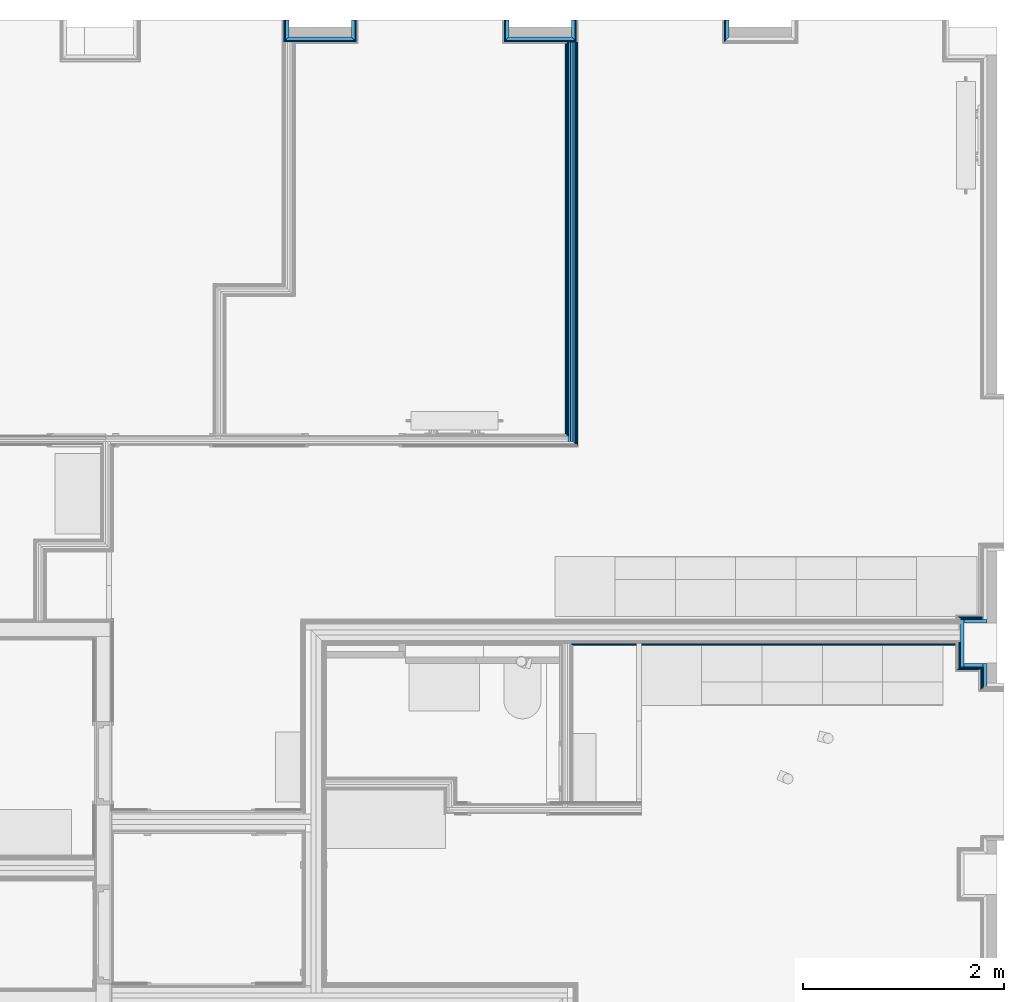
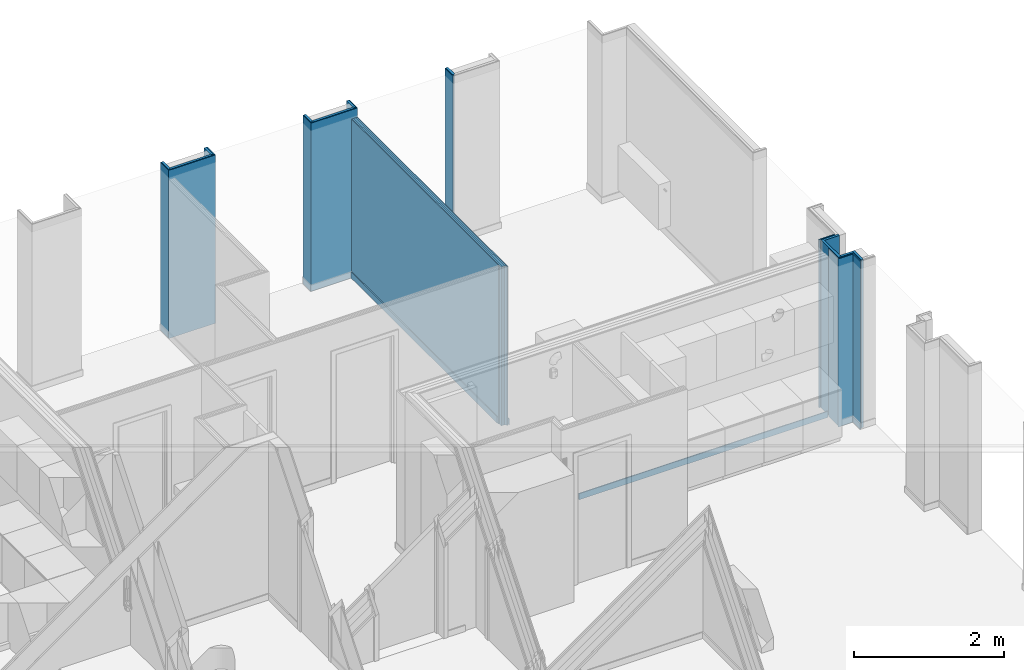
# One storey, part 23 of 85: 33 building element parts, 13 elements without a shape of their own.
"""IFC2X3 building model written with IfcOpenShell, lengths in metres."""

from ifc_helpers import new_model, entity, si_unit, converted_unit, derived_unit, money_unit, direction, frame, frame_2d, origin_with_axes, place, context, subcontext, project, spatial, polyline, rectangle, outline, extrude, material, type_object, element, aggregate, save


model = new_model("IFC2X3")

# Units and contexts
model_context = context("Model", 3, precision=1e-05, world=origin_with_axes(), true_north=direction((0.0, 1.0)))
body_context = subcontext(model_context, "Body", "Model", "MODEL_VIEW", scale=1.0)
ifc_project = project(units=[si_unit("LENGTHUNIT", "METRE"), si_unit("AREAUNIT", "SQUARE_METRE"), si_unit("VOLUMEUNIT", "CUBIC_METRE"), si_unit("ABSORBEDDOSEUNIT", "GRAY"), si_unit("AMOUNTOFSUBSTANCEUNIT", "MOLE"), si_unit("DOSEEQUIVALENTUNIT", "SIEVERT"), si_unit("ELECTRICCAPACITANCEUNIT", "FARAD"), si_unit("ELECTRICCHARGEUNIT", "COULOMB"), si_unit("ELECTRICCONDUCTANCEUNIT", "SIEMENS"), si_unit("ELECTRICCURRENTUNIT", "AMPERE"), si_unit("ELECTRICRESISTANCEUNIT", "OHM"), si_unit("ELECTRICVOLTAGEUNIT", "VOLT"), si_unit("ENERGYUNIT", "JOULE"), si_unit("FORCEUNIT", "NEWTON"), si_unit("FREQUENCYUNIT", "HERTZ"), si_unit("ILLUMINANCEUNIT", "LUX"), si_unit("INDUCTANCEUNIT", "HENRY"), si_unit("LUMINOUSFLUXUNIT", "LUMEN"), si_unit("LUMINOUSINTENSITYUNIT", "CANDELA"), si_unit("MAGNETICFLUXDENSITYUNIT", "TESLA"), si_unit("MAGNETICFLUXUNIT", "WEBER"), si_unit("MASSUNIT", "GRAM"), converted_unit("PLANEANGLEUNIT", "degree", entity("IfcReal", 0.0174532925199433), si_unit("PLANEANGLEUNIT", "RADIAN"), dimensions=[0, 0, 0, 0, 0, 0, 0]), si_unit("POWERUNIT", "WATT"), si_unit("PRESSUREUNIT", "PASCAL"), si_unit("RADIOACTIVITYUNIT", "BECQUEREL"), si_unit("SOLIDANGLEUNIT", "STERADIAN"), si_unit("THERMODYNAMICTEMPERATUREUNIT", "KELVIN"), si_unit("TIMEUNIT", "SECOND"), derived_unit("ACCELERATIONUNIT", [(si_unit("LENGTHUNIT", "METRE"), 1), (si_unit("TIMEUNIT", "SECOND"), -2)]), derived_unit("ANGULARVELOCITYUNIT", [(converted_unit("PLANEANGLEUNIT", "degree", entity("IfcReal", 0.0174532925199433), si_unit("PLANEANGLEUNIT", "RADIAN"), dimensions=[0, 0, 0, 0, 0, 0, 0]), 1), (si_unit("TIMEUNIT", "SECOND"), -1)]), derived_unit("CURVATUREUNIT", [(converted_unit("PLANEANGLEUNIT", "degree", entity("IfcReal", 0.0174532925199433), si_unit("PLANEANGLEUNIT", "RADIAN"), dimensions=[0, 0, 0, 0, 0, 0, 0]), 1), (si_unit("LENGTHUNIT", "METRE"), -1)]), derived_unit("DYNAMICVISCOSITYUNIT", [(si_unit("PRESSUREUNIT", "PASCAL"), 1), (si_unit("TIMEUNIT", "SECOND"), 1)]), derived_unit("HEATFLUXDENSITYUNIT", [(si_unit("POWERUNIT", "WATT"), 1), (si_unit("LENGTHUNIT", "METRE"), -2)]), derived_unit("HEATINGVALUEUNIT", [(si_unit("ENERGYUNIT", "JOULE"), 1), (si_unit("MASSUNIT", "GRAM"), -1)]), derived_unit("INTEGERCOUNTRATEUNIT", [(si_unit("TIMEUNIT", "SECOND"), -1)]), derived_unit("IONCONCENTRATIONUNIT", [(si_unit("MASSUNIT", "GRAM"), 1), (si_unit("VOLUMEUNIT", "CUBIC_METRE"), -1)]), derived_unit("ISOTHERMALMOISTURECAPACITYUNIT", [(si_unit("VOLUMEUNIT", "CUBIC_METRE"), 1), (si_unit("MASSUNIT", "GRAM"), -1)]), derived_unit("KINEMATICVISCOSITYUNIT", [(si_unit("AREAUNIT", "SQUARE_METRE"), 1), (si_unit("TIMEUNIT", "SECOND"), -1)]), derived_unit("LINEARFORCEUNIT", [(si_unit("FORCEUNIT", "NEWTON"), 1), (si_unit("LENGTHUNIT", "METRE"), -1)]), derived_unit("LINEARMOMENTUNIT", [(si_unit("FORCEUNIT", "NEWTON"), 1), (si_unit("LENGTHUNIT", "METRE"), -1)]), derived_unit("LINEARSTIFFNESSUNIT", [(si_unit("FORCEUNIT", "NEWTON"), 1), (si_unit("LENGTHUNIT", "METRE"), -1)]), derived_unit("LINEARVELOCITYUNIT", [(si_unit("LENGTHUNIT", "METRE"), 1), (si_unit("TIMEUNIT", "SECOND"), -1)]), derived_unit("LUMINOUSINTENSITYDISTRIBUTIONUNIT", [(si_unit("LUMINOUSINTENSITYUNIT", "CANDELA"), 1), (si_unit("LUMINOUSFLUXUNIT", "LUMEN"), -1)]), derived_unit("MASSDENSITYUNIT", [(si_unit("MASSUNIT", "GRAM"), 1), (si_unit("VOLUMEUNIT", "CUBIC_METRE"), -1)]), derived_unit("MASSFLOWRATEUNIT", [(si_unit("MASSUNIT", "GRAM"), 1), (si_unit("TIMEUNIT", "SECOND"), -1)]), derived_unit("MASSPERLENGTHUNIT", [(si_unit("MASSUNIT", "GRAM"), 1), (si_unit("LENGTHUNIT", "METRE"), -1)]), derived_unit("MODULUSOFELASTICITYUNIT", [(si_unit("FORCEUNIT", "NEWTON"), 1), (si_unit("AREAUNIT", "SQUARE_METRE"), -1)]), derived_unit("MODULUSOFLINEARSUBGRADEREACTIONUNIT", [(si_unit("FORCEUNIT", "NEWTON"), 1), (si_unit("LENGTHUNIT", "METRE"), -2)]), derived_unit("MODULUSOFROTATIONALSUBGRADEREACTIONUNIT", [(si_unit("FORCEUNIT", "NEWTON"), 1), (si_unit("LENGTHUNIT", "METRE"), 1)]), derived_unit("MODULUSOFSUBGRADEREACTIONUNIT", [(si_unit("FORCEUNIT", "NEWTON"), 1), (si_unit("VOLUMEUNIT", "CUBIC_METRE"), -1)]), derived_unit("MOISTUREDIFFUSIVITYUNIT", [(si_unit("VOLUMEUNIT", "CUBIC_METRE"), 1), (si_unit("TIMEUNIT", "SECOND"), -1)]), derived_unit("MOLECULARWEIGHTUNIT", [(si_unit("MASSUNIT", "GRAM"), 1), (si_unit("AMOUNTOFSUBSTANCEUNIT", "MOLE"), -1)]), derived_unit("PLANARFORCEUNIT", [(si_unit("FORCEUNIT", "NEWTON"), 1), (si_unit("LENGTHUNIT", "METRE"), -2)]), derived_unit("ROTATIONALFREQUENCYUNIT", [(si_unit("TIMEUNIT", "SECOND"), -1)]), derived_unit("ROTATIONALMASSUNIT", [(si_unit("MASSUNIT", "GRAM"), 1), (si_unit("LENGTHUNIT", "METRE"), 2)]), derived_unit("ROTATIONALSTIFFNESSUNIT", [(si_unit("FORCEUNIT", "NEWTON"), 1), (si_unit("LENGTHUNIT", "METRE"), 1), (converted_unit("PLANEANGLEUNIT", "degree", entity("IfcReal", 0.0174532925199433), si_unit("PLANEANGLEUNIT", "RADIAN"), dimensions=[0, 0, 0, 0, 0, 0, 0]), -1)]), derived_unit("SECTIONAREAINTEGRALUNIT", [(si_unit("LENGTHUNIT", "METRE"), 5)]), derived_unit("SECTIONMODULUSUNIT", [(si_unit("LENGTHUNIT", "METRE"), 3)]), derived_unit("SHEARMODULUSUNIT", [(si_unit("FORCEUNIT", "NEWTON"), 1), (si_unit("AREAUNIT", "SQUARE_METRE"), -1)]), derived_unit("SOUNDPOWERUNIT", [(si_unit("ENERGYUNIT", "JOULE"), 1), (si_unit("TIMEUNIT", "SECOND"), -1)]), derived_unit("SPECIFICHEATCAPACITYUNIT", [(si_unit("FORCEUNIT", "NEWTON"), 1), (si_unit("MASSUNIT", "GRAM"), -1), (si_unit("THERMODYNAMICTEMPERATUREUNIT", "KELVIN"), -1)]), derived_unit("TEMPERATUREGRADIENTUNIT", [(si_unit("THERMODYNAMICTEMPERATUREUNIT", "KELVIN"), 1), (si_unit("LENGTHUNIT", "METRE"), -1)]), derived_unit("THERMALADMITTANCEUNIT", [(si_unit("POWERUNIT", "WATT"), 1), (si_unit("AREAUNIT", "SQUARE_METRE"), -1), (si_unit("THERMODYNAMICTEMPERATUREUNIT", "KELVIN"), -1)]), derived_unit("THERMALCONDUCTANCEUNIT", [(si_unit("POWERUNIT", "WATT"), 1), (si_unit("LENGTHUNIT", "METRE"), -1), (si_unit("THERMODYNAMICTEMPERATUREUNIT", "KELVIN"), -1)]), derived_unit("THERMALEXPANSIONCOEFFICIENTUNIT", [(si_unit("THERMODYNAMICTEMPERATUREUNIT", "KELVIN"), -1)]), derived_unit("THERMALRESISTANCEUNIT", [(si_unit("AREAUNIT", "SQUARE_METRE"), 1), (si_unit("POWERUNIT", "WATT"), -1)]), derived_unit("THERMALTRANSMITTANCEUNIT", [(si_unit("POWERUNIT", "WATT"), 1), (si_unit("AREAUNIT", "SQUARE_METRE"), -1), (si_unit("THERMODYNAMICTEMPERATUREUNIT", "KELVIN"), -1)]), derived_unit("TORQUEUNIT", [(si_unit("FORCEUNIT", "NEWTON"), 1), (si_unit("LENGTHUNIT", "METRE"), 1)]), derived_unit("VAPORPERMEABILITYUNIT", [(si_unit("MASSUNIT", "GRAM"), 1), (si_unit("TIMEUNIT", "SECOND"), -1)]), derived_unit("VOLUMETRICFLOWRATEUNIT", [(si_unit("VOLUMEUNIT", "CUBIC_METRE"), 1), (si_unit("TIMEUNIT", "SECOND"), -1)]), derived_unit("WARPINGCONSTANTUNIT", [(si_unit("LENGTHUNIT", "METRE"), 6)]), derived_unit("WARPINGMOMENTUNIT", [(si_unit("FORCEUNIT", "NEWTON"), 1), (si_unit("LENGTHUNIT", "METRE"), 2)]), money_unit("GBP")], contexts=[model_context])

# Site, building, storey
site_placement = place(None, origin_with_axes())
site = spatial("IfcSite", under=ifc_project, at=site_placement, Name="Site", CompositionType="ELEMENT")
building_placement = place(site_placement, origin_with_axes())
building = spatial("IfcBuilding", under=site, at=building_placement, Name="Building01", CompositionType="ELEMENT")
storey_placement = place(building_placement, frame((0.0, 0.0, 12.13), z_axis=(0.0, 0.0, 1.0), x_axis=(1.0, 0.0, 0.0)))
storey = spatial("IfcBuildingStorey", under=building, at=storey_placement, Name="3F", CompositionType="ELEMENT", Elevation=12.13)

# Wall, building element parts
wall_type_1 = type_object("IfcWallType", Name="SHE_A-Walls_Type06d_ExternalWallInsulation_48mm", PredefinedType="NOTDEFINED")
wall_1_placement = place(storey_placement, frame((20.387, 14.8, 0.0), z_axis=(0.0, 0.0, 1.0), x_axis=(0.0, -1.0, 0.0)))
wall_1 = element("IfcWall", 1, at=wall_1_placement, inside=storey, type_object=wall_type_1, Name="6D", ObjectType="SHE_A-Walls_Type06d_ExternalWallInsulation_48mm")
ifc_material_1 = material(Name="A_BSUK_Insulation")
placement_1 = place(wall_1_placement, origin_with_axes())
building_element_part_1 = element("IfcBuildingElementPart", 2, at=placement_1, material=ifc_material_1, Name="1", context=body_context, shape_type="SweptSolid", body=[
    extrude(outline(polyline([(0.206, 0.036), (0.0, 0.036), (0.0, 0.0), (0.17, 0.0), (0.206, 0.036)])), origin_with_axes(), (0.0, 0.0, 1.0), 2.74),
])
ifc_material_2 = material(Name="A_BSUK_WallInternal_Finishes_Plasterboard")
building_element_part_2 = element("IfcBuildingElementPart", 3, at=placement_1, material=ifc_material_2, Name="2", context=body_context, shape_type="SweptSolid", body=[
    extrude(outline(polyline([(0.218, 0.048), (0.0, 0.048), (0.0, 0.035), (0.205, 0.035), (0.218, 0.048)])), origin_with_axes(), (0.0, 0.0, 1.0), 2.74),
])
aggregate(wall_1, [building_element_part_1, building_element_part_2])

wall_2_placement = place(storey_placement, frame((20.387, 14.63, 0.0), z_axis=(0.0, 0.0, 1.0), x_axis=(-1.0, 0.0, 0.0)))
wall_2 = element("IfcWall", 4, at=wall_2_placement, inside=storey, type_object=wall_type_1, Name="6D", ObjectType="SHE_A-Walls_Type06d_ExternalWallInsulation_48mm")
placement_2 = place(wall_2_placement, origin_with_axes())
building_element_part_3 = element("IfcBuildingElementPart", 5, at=placement_2, material=ifc_material_1, Name="1", context=body_context, shape_type="SweptSolid", body=[
    extrude(outline(polyline([(0.66, 0.036), (-0.036, 0.036), (0.0, 0.0), (0.624, 0.0), (0.66, 0.036)])), origin_with_axes(), (0.0, 0.0, 1.0), 2.74),
])
building_element_part_4 = element("IfcBuildingElementPart", 6, at=placement_2, material=ifc_material_2, Name="2", context=body_context, shape_type="SweptSolid", body=[
    extrude(outline(polyline([(0.672, 0.048), (-0.048, 0.048), (-0.035, 0.035), (0.659, 0.035), (0.672, 0.048)])), origin_with_axes(), (0.0, 0.0, 1.0), 2.74),
])
aggregate(wall_2, [building_element_part_3, building_element_part_4])

wall_3_placement = place(storey_placement, frame((19.763, 14.63, 0.0), z_axis=(0.0, 0.0, 1.0), x_axis=(0.0, 1.0, 0.0)))
wall_3 = element("IfcWall", 7, at=wall_3_placement, inside=storey, type_object=wall_type_1, Name="6D", ObjectType="SHE_A-Walls_Type06d_ExternalWallInsulation_48mm")
placement_3 = place(wall_3_placement, origin_with_axes())
building_element_part_5 = element("IfcBuildingElementPart", 8, at=placement_3, material=ifc_material_1, Name="1", context=body_context, shape_type="SweptSolid", body=[
    extrude(outline(polyline([(-0.036, 0.036), (0.0, 0.0), (0.17, 0.0), (0.17, 0.036), (-0.036, 0.036)])), origin_with_axes(), (0.0, 0.0, 1.0), 2.74),
])
building_element_part_6 = element("IfcBuildingElementPart", 9, at=placement_3, material=ifc_material_2, Name="2", context=body_context, shape_type="SweptSolid", body=[
    extrude(outline(polyline([(-0.048, 0.048), (-0.035, 0.035), (0.17, 0.035), (0.17, 0.048), (-0.048, 0.048)])), origin_with_axes(), (0.0, 0.0, 1.0), 2.74),
])
aggregate(wall_3, [building_element_part_5, building_element_part_6])

wall_4_placement = place(storey_placement, frame((22.577, 14.8, 0.0), z_axis=(0.0, 0.0, 1.0), x_axis=(0.0, -1.0, 0.0)))
wall_4 = element("IfcWall", 10, at=wall_4_placement, inside=storey, type_object=wall_type_1, Name="6D", ObjectType="SHE_A-Walls_Type06d_ExternalWallInsulation_48mm")
placement_4 = place(wall_4_placement, origin_with_axes())
building_element_part_7 = element("IfcBuildingElementPart", 11, at=placement_4, material=ifc_material_1, Name="1", context=body_context, shape_type="SweptSolid", body=[
    extrude(outline(polyline([(0.206, 0.036), (0.0, 0.036), (0.0, 0.0), (0.17, 0.0), (0.206, 0.036)])), origin_with_axes(), (0.0, 0.0, 1.0), 2.74),
])
building_element_part_8 = element("IfcBuildingElementPart", 12, at=placement_4, material=ifc_material_2, Name="2", context=body_context, shape_type="SweptSolid", body=[
    extrude(outline(polyline([(0.218, 0.048), (0.0, 0.048), (0.0, 0.035), (0.205, 0.035), (0.218, 0.048)])), origin_with_axes(), (0.0, 0.0, 1.0), 2.74),
])
aggregate(wall_4, [building_element_part_7, building_element_part_8])

wall_5_placement = place(storey_placement, frame((22.577, 14.63, 0.0), z_axis=(0.0, 0.0, 1.0), x_axis=(-1.0, 0.0, 0.0)))
wall_5 = element("IfcWall", 13, at=wall_5_placement, inside=storey, type_object=wall_type_1, Name="6D", ObjectType="SHE_A-Walls_Type06d_ExternalWallInsulation_48mm")
placement_5 = place(wall_5_placement, origin_with_axes())
building_element_part_9 = element("IfcBuildingElementPart", 14, at=placement_5, material=ifc_material_1, Name="1", context=body_context, shape_type="SweptSolid", body=[
    extrude(outline(polyline([(0.66, 0.036), (-0.036, 0.036), (0.0, 0.0), (0.624, 0.0), (0.66, 0.036)])), origin_with_axes(), (0.0, 0.0, 1.0), 2.74),
])
building_element_part_10 = element("IfcBuildingElementPart", 15, at=placement_5, material=ifc_material_2, Name="2", context=body_context, shape_type="SweptSolid", body=[
    extrude(outline(polyline([(0.672, 0.048), (-0.048, 0.048), (-0.035, 0.035), (0.659, 0.035), (0.672, 0.048)])), origin_with_axes(), (0.0, 0.0, 1.0), 2.74),
])
aggregate(wall_5, [building_element_part_9, building_element_part_10])

wall_6_placement = place(storey_placement, frame((21.953, 14.63, 0.0), z_axis=(0.0, 0.0, 1.0), x_axis=(0.0, 1.0, 0.0)))
wall_6 = element("IfcWall", 16, at=wall_6_placement, inside=storey, type_object=wall_type_1, Name="6D", ObjectType="SHE_A-Walls_Type06d_ExternalWallInsulation_48mm")
placement_6 = place(wall_6_placement, origin_with_axes())
building_element_part_11 = element("IfcBuildingElementPart", 17, at=placement_6, material=ifc_material_1, Name="1", context=body_context, shape_type="SweptSolid", body=[
    extrude(outline(polyline([(-0.036, 0.036), (0.0, 0.0), (0.17, 0.0), (0.17, 0.036), (-0.036, 0.036)])), origin_with_axes(), (0.0, 0.0, 1.0), 2.74),
])
building_element_part_12 = element("IfcBuildingElementPart", 18, at=placement_6, material=ifc_material_2, Name="2", context=body_context, shape_type="SweptSolid", body=[
    extrude(outline(polyline([(-0.048, 0.048), (-0.035, 0.035), (0.17, 0.035), (0.17, 0.048), (-0.048, 0.048)])), origin_with_axes(), (0.0, 0.0, 1.0), 2.74),
])
aggregate(wall_6, [building_element_part_11, building_element_part_12])

wall_7_placement = place(storey_placement, frame((24.143, 14.63, 0.0), z_axis=(0.0, 0.0, 1.0), x_axis=(0.0, 1.0, 0.0)))
wall_7 = element("IfcWall", 19, at=wall_7_placement, inside=storey, type_object=wall_type_1, Name="6D", ObjectType="SHE_A-Walls_Type06d_ExternalWallInsulation_48mm")
placement_7 = place(wall_7_placement, origin_with_axes())
building_element_part_13 = element("IfcBuildingElementPart", 20, at=placement_7, material=ifc_material_1, Name="1", context=body_context, shape_type="SweptSolid", body=[
    extrude(outline(polyline([(-0.036, 0.036), (0.0, 0.0), (0.17, 0.0), (0.17, 0.036), (-0.036, 0.036)])), origin_with_axes(), (0.0, 0.0, 1.0), 2.74),
])
building_element_part_14 = element("IfcBuildingElementPart", 21, at=placement_7, material=ifc_material_2, Name="2", context=body_context, shape_type="SweptSolid", body=[
    extrude(outline(polyline([(-0.048, 0.048), (-0.035, 0.035), (0.17, 0.035), (0.17, 0.048), (-0.048, 0.048)])), origin_with_axes(), (0.0, 0.0, 1.0), 2.74),
])
aggregate(wall_7, [building_element_part_13, building_element_part_14])

wall_type_2 = type_object("IfcWallType", Name="SHE_A-Walls_Type05a_Partition_95mm_tall", PredefinedType="NOTDEFINED")
wall_8_placement = place(storey_placement, frame((22.59, 10.605, 0.0), z_axis=(0.0, 0.0, 1.0), x_axis=(0.0, 1.0, 0.0)))
wall_8 = element("IfcWall", 22, at=wall_8_placement, inside=storey, type_object=wall_type_2, Name="5A", ObjectType="SHE_A-Walls_Type05a_Partition_95mm_tall")
ifc_material_3 = material(Name="A_BSUK_Walls_Timber")
placement_8 = place(wall_8_placement, origin_with_axes())
building_element_part_15 = element("IfcBuildingElementPart", 23, at=placement_8, material=ifc_material_3, Name="1", context=body_context, shape_type="SweptSolid", body=[
    extrude(outline(polyline([(3.977, -0.035), (-0.035, -0.035), (-0.05, -0.05), (3.977, -0.05), (3.977, -0.035)])), frame((0.0, 0.0, 0.015), z_axis=(0.0, 0.0, 1.0), x_axis=(1.0, 0.0, 0.0)), (0.0, 0.0, 1.0), 0.1),
])
building_element_part_16 = element("IfcBuildingElementPart", 24, at=placement_8, material=ifc_material_2, Name="2", context=body_context, shape_type="SweptSolid", body=[
    extrude(outline(polyline([(3.977, -0.023), (-0.023, -0.023), (-0.035, -0.035), (3.977, -0.035), (3.977, -0.023)])), origin_with_axes(), (0.0, 0.0, 1.0), 2.59),
])
ifc_material_4 = material(Name="Air Cavity")
building_element_part_17 = element("IfcBuildingElementPart", 25, at=placement_8, material=ifc_material_4, Name="3", context=body_context, shape_type="SweptSolid", body=[
    extrude(outline(polyline([(3.977, 0.0), (0.0, 0.0), (-0.023, -0.023), (3.977, -0.023), (3.977, 0.0)])), origin_with_axes(), (0.0, 0.0, 1.0), 2.59),
])
building_element_part_18 = element("IfcBuildingElementPart", 26, at=placement_8, material=ifc_material_1, Name="4", context=body_context, shape_type="SweptSolid", body=[
    extrude(rectangle(XDim=3.977, YDim=0.025, at=frame_2d((1.9885, 0.0125), x_axis=(-1.0, 0.0))), origin_with_axes(), (0.0, 0.0, 1.0), 2.59),
])
building_element_part_19 = element("IfcBuildingElementPart", 27, at=placement_8, material=ifc_material_4, Name="5", context=body_context, shape_type="SweptSolid", body=[
    extrude(rectangle(XDim=3.977, YDim=0.023, at=frame_2d((1.9885, 0.0365), x_axis=(-1.0, 0.0))), origin_with_axes(), (0.0, 0.0, 1.0), 2.59),
])
building_element_part_20 = element("IfcBuildingElementPart", 28, at=placement_8, material=ifc_material_2, Name="6", context=body_context, shape_type="SweptSolid", body=[
    extrude(outline(polyline([(3.977, 0.06), (0.06, 0.06), (0.048, 0.048), (3.977, 0.048), (3.977, 0.06)])), origin_with_axes(), (0.0, 0.0, 1.0), 2.59),
])
building_element_part_21 = element("IfcBuildingElementPart", 29, at=placement_8, material=ifc_material_3, Name="7", context=body_context, shape_type="SweptSolid", body=[
    extrude(outline(polyline([(3.962, 0.075), (0.075, 0.075), (0.06, 0.06), (3.962, 0.06), (3.962, 0.075)])), frame((0.0, 0.0, 0.015), z_axis=(0.0, 0.0, 1.0), x_axis=(1.0, 0.0, 0.0)), (0.0, 0.0, 1.0), 0.1),
])
aggregate(wall_8, [building_element_part_15, building_element_part_16, building_element_part_17, building_element_part_18, building_element_part_19, building_element_part_20, building_element_part_21])

# Wall, building element part
wall_type_3 = type_object("IfcWallType", Name="SHE_A-Walls_Type01c_Partywall_225mm_twin_tall", PredefinedType="NOTDEFINED")
wall_9_placement = place(storey_placement, frame((26.444, 8.732, 0.0), z_axis=(0.0, 0.0, 1.0), x_axis=(-1.0, 0.0, 0.0)))
wall_9 = element("IfcWall", 30, at=wall_9_placement, inside=storey, type_object=wall_type_3, Name="1C", ObjectType="SHE_A-Walls_Type01c_Partywall_225mm_twin_tall")
building_element_part_22_placement = place(wall_9_placement, origin_with_axes())
building_element_part_22 = element("IfcBuildingElementPart", 31, at=building_element_part_22_placement, material=ifc_material_3, Name="11", context=body_context, shape_type="SweptSolid", body=[
    extrude(rectangle(XDim=3.830339, YDim=0.015, at=frame_2d((1.957169, 0.1445), x_axis=(-1.0, 0.0))), frame((0.0, 0.0, 0.015), z_axis=(0.0, 0.0, 1.0), x_axis=(1.0, 0.0, 0.0)), (0.0, 0.0, 1.0), 0.1),
])
aggregate(wall_9, [building_element_part_22])

# Wall, building element parts
wall_type_4 = type_object("IfcWallType", Name="SHE_A-Walls_Type06f_ExternalWallInsulation_48+15mm", PredefinedType="NOTDEFINED")
wall_10_placement = place(storey_placement, frame((26.709178, 8.8, 0.0), z_axis=(0.0, 0.0, 1.0), x_axis=(1.0, 0.0, 0.0)))
wall_10 = element("IfcWall", 32, at=wall_10_placement, inside=storey, type_object=wall_type_4, Name="6F", ObjectType="SHE_A-Walls_Type06f_ExternalWallInsulation_48+15mm")
placement_9 = place(wall_10_placement, origin_with_axes())
building_element_part_23 = element("IfcBuildingElementPart", 33, at=placement_9, material=ifc_material_1, Name="1", context=body_context, shape_type="SweptSolid", body=[
    extrude(rectangle(XDim=0.229178, YDim=0.036, at=frame_2d((-0.114589, 0.018), x_axis=(1.0, 0.0))), origin_with_axes(), (0.0, 0.0, 1.0), 2.74),
])
building_element_part_24 = element("IfcBuildingElementPart", 34, at=placement_9, material=ifc_material_2, Name="2", context=body_context, shape_type="SweptSolid", body=[
    extrude(rectangle(XDim=0.217178, YDim=0.012, at=frame_2d((-0.156589, 0.042), x_axis=(1.0, 0.0))), origin_with_axes(), (0.0, 0.0, 1.0), 2.74),
])
building_element_part_25 = element("IfcBuildingElementPart", 35, at=placement_9, material=ifc_material_2, Name="3", context=body_context, shape_type="SweptSolid", body=[
    extrude(outline(polyline([(-0.277178, 0.048), (-0.048, 0.048), (-0.048, 0.063), (-0.292178, 0.063), (-0.277178, 0.048)])), origin_with_axes(), (0.0, 0.0, 1.0), 2.74),
])
aggregate(wall_10, [building_element_part_23, building_element_part_24, building_element_part_25])

wall_11_placement = place(storey_placement, frame((26.673178, 8.397548, 0.0), z_axis=(0.0, 0.0, 1.0), x_axis=(1.0, 0.0, 0.0)))
wall_11 = element("IfcWall", 36, at=wall_11_placement, inside=storey, type_object=wall_type_4, Name="6F", ObjectType="SHE_A-Walls_Type06f_ExternalWallInsulation_48+15mm")
placement_10 = place(wall_11_placement, origin_with_axes())
building_element_part_26 = element("IfcBuildingElementPart", 37, at=placement_10, material=ifc_material_2, Name="2", context=body_context, shape_type="SweptSolid", body=[
    extrude(outline(polyline([(-0.256178, -0.063), (-0.027, -0.063), (-0.027, -0.048), (-0.241178, -0.048), (-0.256178, -0.063)])), origin_with_axes(), (0.0, 0.0, 1.0), 2.74),
])
building_element_part_27 = element("IfcBuildingElementPart", 38, at=placement_10, material=ifc_material_2, Name="3", context=body_context, shape_type="SweptSolid", body=[
    extrude(rectangle(XDim=0.217178, YDim=0.012, at=frame_2d((-0.120589, -0.042), x_axis=(1.0, 0.0))), origin_with_axes(), (0.0, 0.0, 1.0), 2.74),
])
building_element_part_28 = element("IfcBuildingElementPart", 39, at=placement_10, material=ifc_material_1, Name="4", context=body_context, shape_type="SweptSolid", body=[
    extrude(rectangle(XDim=0.193178, YDim=0.036, at=frame_2d((-0.096589, -0.018), x_axis=(1.0, 0.0))), origin_with_axes(), (0.0, 0.0, 1.0), 2.74),
])
aggregate(wall_11, [building_element_part_26, building_element_part_27, building_element_part_28])

wall_12_placement = place(storey_placement, frame((26.709178, 8.164326, 0.0), z_axis=(0.0, 0.0, 1.0), x_axis=(0.0, 1.0, 0.0)))
wall_12 = element("IfcWall", 40, at=wall_12_placement, inside=storey, type_object=wall_type_4, Name="6F", ObjectType="SHE_A-Walls_Type06f_ExternalWallInsulation_48+15mm")
placement_11 = place(wall_12_placement, origin_with_axes())
building_element_part_29 = element("IfcBuildingElementPart", 41, at=placement_11, material=ifc_material_1, Name="1", context=body_context, shape_type="SweptSolid", body=[
    extrude(rectangle(XDim=0.233222, YDim=0.036, at=frame_2d((0.116611, 0.018), x_axis=(-1.0, 0.0))), origin_with_axes(), (0.0, 0.0, 1.0), 2.74),
])
building_element_part_30 = element("IfcBuildingElementPart", 42, at=placement_11, material=ifc_material_2, Name="2", context=body_context, shape_type="SweptSolid", body=[
    extrude(rectangle(XDim=0.209222, YDim=0.012, at=frame_2d((0.092611, 0.042), x_axis=(-1.0, 0.0))), origin_with_axes(), (0.0, 0.0, 1.0), 2.74),
])
building_element_part_31 = element("IfcBuildingElementPart", 43, at=placement_11, material=ifc_material_2, Name="3", context=body_context, shape_type="SweptSolid", body=[
    extrude(outline(polyline([(0.185222, 0.063), (-0.027, 0.063), (-0.012, 0.048), (0.185222, 0.048), (0.185222, 0.063)])), origin_with_axes(), (0.0, 0.0, 1.0), 2.74),
])
aggregate(wall_12, [building_element_part_29, building_element_part_30, building_element_part_31])

wall_13_placement = place(storey_placement, frame((26.48, 8.361548, 0.0), z_axis=(0.0, 0.0, 1.0), x_axis=(0.0, 1.0, 0.0)))
wall_13 = element("IfcWall", 44, at=wall_13_placement, inside=storey, type_object=wall_type_4, Name="6F", ObjectType="SHE_A-Walls_Type06f_ExternalWallInsulation_48+15mm")
placement_12 = place(wall_13_placement, origin_with_axes())
building_element_part_32 = element("IfcBuildingElementPart", 45, at=placement_12, material=ifc_material_1, Name="1", context=body_context, shape_type="SweptSolid", body=[
    extrude(rectangle(XDim=0.474452, YDim=0.036, at=frame_2d((0.237226, 0.018), x_axis=(-1.0, 0.0))), origin_with_axes(), (0.0, 0.0, 1.0), 2.74),
])
building_element_part_33 = element("IfcBuildingElementPart", 46, at=placement_12, material=ifc_material_2, Name="2", context=body_context, shape_type="SweptSolid", body=[
    extrude(rectangle(XDim=0.260452, YDim=0.012, at=frame_2d((0.118226, 0.042), x_axis=(-1.0, 0.0))), origin_with_axes(), (0.0, 0.0, 1.0), 2.74),
])
aggregate(wall_13, [building_element_part_32, building_element_part_33])

save(model, "model.ifc")
